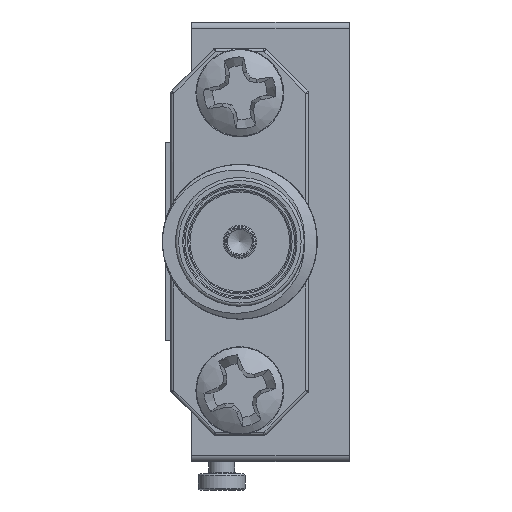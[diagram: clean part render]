
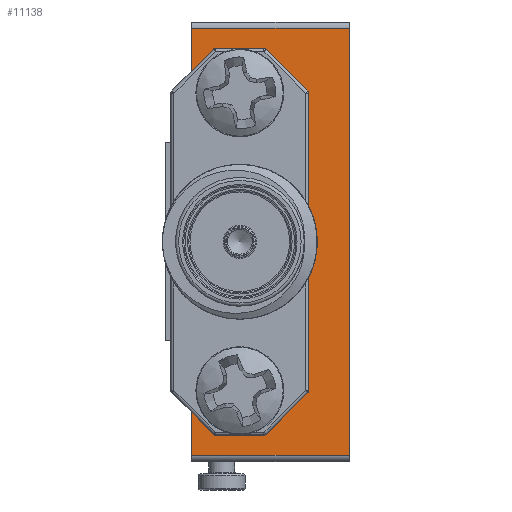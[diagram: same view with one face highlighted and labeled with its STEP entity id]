
A CAD part, left-side view. The second image highlights one B-rep face of the part: STEP entity #11138.
In plain terms, the highlighted planar face has unit normal (-1, 0, 0).
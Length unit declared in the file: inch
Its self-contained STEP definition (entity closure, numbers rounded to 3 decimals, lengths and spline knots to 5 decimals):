
#346 = CARTESIAN_POINT ( 'NONE',  ( 36.63472, 40.43582, 40.21587 ) ) ;
#1606 = DIRECTION ( 'NONE',  ( -1., 0., 0. ) ) ;
#2466 = AXIS2_PLACEMENT_3D ( 'NONE', #31485, #42067, #32388 ) ;
#2928 = DIRECTION ( 'NONE',  ( 0., -1., 0. ) ) ;
#4060 = CARTESIAN_POINT ( 'NONE',  ( 36.63472, 40.18082, 40.90587 ) ) ;
#4380 = FACE_BOUND ( 'NONE', #29928, .T. ) ;
#4857 = VECTOR ( 'NONE', #2928, 39.37008 ) ;
#5202 = ORIENTED_EDGE ( 'NONE', *, *, #6835, .F. ) ;
#5537 = VERTEX_POINT ( 'NONE', #37081 ) ;
#5898 = EDGE_CURVE ( 'NONE', #40935, #22965, #8532, .T. ) ;
#6835 = EDGE_CURVE ( 'NONE', #22965, #33207, #19700, .T. ) ;
#7935 = ORIENTED_EDGE ( 'NONE', *, *, #23329, .F. ) ;
#8300 = LINE ( 'NONE', #22353, #12988 ) ;
#8532 = LINE ( 'NONE', #26835, #38860 ) ;
#9219 = ORIENTED_EDGE ( 'NONE', *, *, #11139, .F. ) ;
#9317 = DIRECTION ( 'NONE',  ( -1., 0., 0. ) ) ;
#9403 = DIRECTION ( 'NONE',  ( 0., 1., 0. ) ) ;
#9936 = CARTESIAN_POINT ( 'NONE',  ( 36.63472, 40.43582, 40.21587 ) ) ;
#10146 = CARTESIAN_POINT ( 'NONE',  ( 36.63472, 40.35982, 40.35487 ) ) ;
#10216 = LINE ( 'NONE', #17817, #30600 ) ;
#10826 = VECTOR ( 'NONE', #34614, 39.37008 ) ;
#11138 = ADVANCED_FACE ( 'NONE', ( #35414, #4380, #42296 ), #35189, .F. ) ;
#11139 = EDGE_CURVE ( 'NONE', #35558, #5537, #38857, .T. ) ;
#11230 = ORIENTED_EDGE ( 'NONE', *, *, #20230, .F. ) ;
#11915 = CARTESIAN_POINT ( 'NONE',  ( 36.63472, 40.28782, 40.37887 ) ) ;
#12331 = CARTESIAN_POINT ( 'NONE',  ( 36.63472, 40.35982, 40.31987 ) ) ;
#12969 = EDGE_CURVE ( 'NONE', #35558, #24732, #44339, .T. ) ;
#12988 = VECTOR ( 'NONE', #33099, 39.37008 ) ;
#13386 = ORIENTED_EDGE ( 'NONE', *, *, #14355, .F. ) ;
#14027 = ORIENTED_EDGE ( 'NONE', *, *, #37527, .F. ) ;
#14355 = EDGE_CURVE ( 'NONE', #33207, #45221, #8300, .T. ) ;
#17817 = CARTESIAN_POINT ( 'NONE',  ( 36.63472, 40.43582, 40.37887 ) ) ;
#17834 = ORIENTED_EDGE ( 'NONE', *, *, #27577, .F. ) ;
#17995 = DIRECTION ( 'NONE',  ( 0., 0., 1. ) ) ;
#18864 = CARTESIAN_POINT ( 'NONE',  ( 36.63472, 40.18082, 40.21587 ) ) ;
#19700 = LINE ( 'NONE', #9936, #23606 ) ;
#20230 = EDGE_CURVE ( 'NONE', #32572, #40935, #31365, .T. ) ;
#20745 = DIRECTION ( 'NONE',  ( 0., 0., 1. ) ) ;
#20866 = CIRCLE ( 'NONE', #31081, 0.035 ) ;
#22353 = CARTESIAN_POINT ( 'NONE',  ( 36.63472, 40.43582, 40.90587 ) ) ;
#22934 = CARTESIAN_POINT ( 'NONE',  ( 36.63472, 40.43582, 40.74287 ) ) ;
#22965 = VERTEX_POINT ( 'NONE', #22934 ) ;
#23329 = EDGE_CURVE ( 'NONE', #41610, #41610, #20866, .T. ) ;
#23606 = VECTOR ( 'NONE', #20745, 39.37008 ) ;
#24105 = CARTESIAN_POINT ( 'NONE',  ( 36.63472, 40.43582, 40.21587 ) ) ;
#24732 = VERTEX_POINT ( 'NONE', #43608 ) ;
#24749 = EDGE_CURVE ( 'NONE', #24732, #45221, #36500, .T. ) ;
#25054 = CARTESIAN_POINT ( 'NONE',  ( 36.63472, 40.43582, 40.21587 ) ) ;
#25940 = VERTEX_POINT ( 'NONE', #36096 ) ;
#26756 = DIRECTION ( 'NONE',  ( 0., 0., 1. ) ) ;
#26835 = CARTESIAN_POINT ( 'NONE',  ( 36.63472, 40.43582, 40.74287 ) ) ;
#26897 = DIRECTION ( 'NONE',  ( 0., 0., 1. ) ) ;
#27011 = CARTESIAN_POINT ( 'NONE',  ( 36.63472, 40.43582, 40.90587 ) ) ;
#27577 = EDGE_CURVE ( 'NONE', #25940, #25940, #45434, .T. ) ;
#29928 = EDGE_LOOP ( 'NONE', ( #17834 ) ) ;
#30379 = VECTOR ( 'NONE', #17995, 39.37008 ) ;
#30600 = VECTOR ( 'NONE', #35001, 39.37008 ) ;
#31081 = AXIS2_PLACEMENT_3D ( 'NONE', #12331, #9317, #26756 ) ;
#31365 = LINE ( 'NONE', #45403, #10826 ) ;
#31470 = AXIS2_PLACEMENT_3D ( 'NONE', #33561, #1606, #26897 ) ;
#31485 = CARTESIAN_POINT ( 'NONE',  ( 36.63472, 40.43582, 40.21587 ) ) ;
#31941 = VECTOR ( 'NONE', #33015, 39.37008 ) ;
#32058 = CARTESIAN_POINT ( 'NONE',  ( 36.63472, 40.28782, 40.74287 ) ) ;
#32388 = DIRECTION ( 'NONE',  ( 0., 0., -1. ) ) ;
#32572 = VERTEX_POINT ( 'NONE', #11915 ) ;
#32816 = EDGE_LOOP ( 'NONE', ( #11230, #14027, #9219, #37386, #45015, #13386, #5202, #38960 ) ) ;
#33015 = DIRECTION ( 'NONE',  ( 0., 0., 1. ) ) ;
#33099 = DIRECTION ( 'NONE',  ( 0., -1., 0. ) ) ;
#33207 = VERTEX_POINT ( 'NONE', #27011 ) ;
#33561 = CARTESIAN_POINT ( 'NONE',  ( 36.63472, 40.35982, 40.80087 ) ) ;
#33965 = EDGE_LOOP ( 'NONE', ( #7935 ) ) ;
#34614 = DIRECTION ( 'NONE',  ( 0., 0., 1. ) ) ;
#35001 = DIRECTION ( 'NONE',  ( 0., -1., 0. ) ) ;
#35189 = PLANE ( 'NONE',  #2466 ) ;
#35414 = FACE_BOUND ( 'NONE', #33965, .T. ) ;
#35558 = VERTEX_POINT ( 'NONE', #346 ) ;
#36096 = CARTESIAN_POINT ( 'NONE',  ( 36.63472, 40.35982, 40.83587 ) ) ;
#36500 = LINE ( 'NONE', #18864, #31941 ) ;
#37081 = CARTESIAN_POINT ( 'NONE',  ( 36.63472, 40.43582, 40.37887 ) ) ;
#37386 = ORIENTED_EDGE ( 'NONE', *, *, #12969, .T. ) ;
#37527 = EDGE_CURVE ( 'NONE', #5537, #32572, #10216, .T. ) ;
#38857 = LINE ( 'NONE', #25054, #30379 ) ;
#38860 = VECTOR ( 'NONE', #9403, 39.37008 ) ;
#38960 = ORIENTED_EDGE ( 'NONE', *, *, #5898, .F. ) ;
#40935 = VERTEX_POINT ( 'NONE', #32058 ) ;
#41610 = VERTEX_POINT ( 'NONE', #10146 ) ;
#42067 = DIRECTION ( 'NONE',  ( 1., 0., 0. ) ) ;
#42296 = FACE_OUTER_BOUND ( 'NONE', #32816, .T. ) ;
#43608 = CARTESIAN_POINT ( 'NONE',  ( 36.63472, 40.18082, 40.21587 ) ) ;
#44339 = LINE ( 'NONE', #24105, #4857 ) ;
#45015 = ORIENTED_EDGE ( 'NONE', *, *, #24749, .T. ) ;
#45221 = VERTEX_POINT ( 'NONE', #4060 ) ;
#45403 = CARTESIAN_POINT ( 'NONE',  ( 36.63472, 40.28782, 40.37887 ) ) ;
#45434 = CIRCLE ( 'NONE', #31470, 0.035 ) ;
